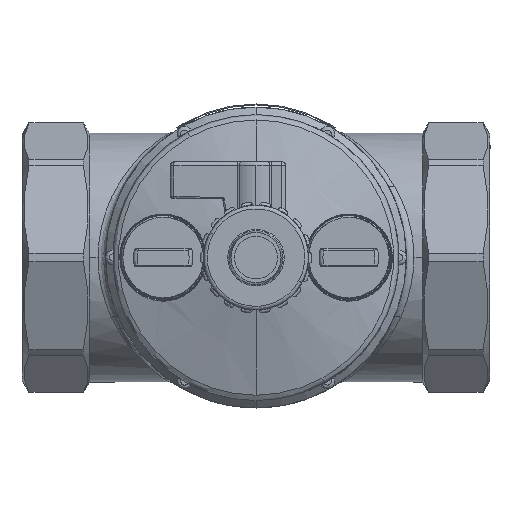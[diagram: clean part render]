
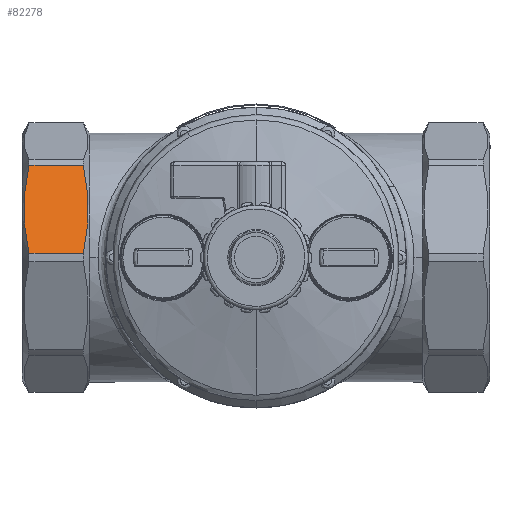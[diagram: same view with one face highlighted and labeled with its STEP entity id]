
A CAD part, front view. The second image highlights one B-rep face of the part: STEP entity #82278.
In plain terms, the highlighted planar face has unit normal (0, -0.924, 0.383) as drawn and (0.383, 0, -0.924) by its records, which use the part's own axes.
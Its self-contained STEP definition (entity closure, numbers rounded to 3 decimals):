
#173 = CARTESIAN_POINT ( 'NONE',  ( 3.079, -46.088, -35.918 ) ) ;
#1025 = ORIENTED_EDGE ( 'NONE', *, *, #78706, .F. ) ;
#6416 = CARTESIAN_POINT ( 'NONE',  ( 24.835, -61.124, -26.906 ) ) ;
#7474 = CARTESIAN_POINT ( 'NONE',  ( 16.965, -62.359, -30.166 ) ) ;
#10460 = VERTEX_POINT ( 'NONE', #12087 ) ;
#10646 = VECTOR ( 'NONE', #81162, 1000. ) ;
#12087 = CARTESIAN_POINT ( 'NONE',  ( 1.111, -61.124, -36.733 ) ) ;
#12273 = CARTESIAN_POINT ( 'NONE',  ( 9.04, -45.259, -33.449 ) ) ;
#13119 = CARTESIAN_POINT ( 'NONE',  ( 1.111, -46.5, -36.733 ) ) ;
#15354 = AXIS2_PLACEMENT_3D ( 'NONE', #32096, #19569, #33816 ) ;
#19178 = CARTESIAN_POINT ( 'NONE',  ( 11.027, -45.142, -32.626 ) ) ;
#19569 = DIRECTION ( 'NONE',  ( 0.383, 0., -0.924 ) ) ;
#19702 = EDGE_CURVE ( 'NONE', #20546, #41273, #58850, .T. ) ;
#19939 = CARTESIAN_POINT ( 'NONE',  ( 24.835, -46.5, -26.906 ) ) ;
#20284 = LINE ( 'NONE', #40980, #10646 ) ;
#20546 = VERTEX_POINT ( 'NONE', #19939 ) ;
#21701 = CARTESIAN_POINT ( 'NONE',  ( 2.093, -61.341, -36.326 ) ) ;
#26101 = CARTESIAN_POINT ( 'NONE',  ( 14.989, -45.145, -30.984 ) ) ;
#27290 = ORIENTED_EDGE ( 'NONE', *, *, #59559, .T. ) ;
#29052 = CARTESIAN_POINT ( 'NONE',  ( 20.907, -61.898, -28.533 ) ) ;
#32096 = CARTESIAN_POINT ( 'NONE',  ( 31.028, -65.5, -24.341 ) ) ;
#33426 = CARTESIAN_POINT ( 'NONE',  ( 16.965, -45.264, -30.166 ) ) ;
#33679 = CARTESIAN_POINT ( 'NONE',  ( 1.111, -46.5, -36.733 ) ) ;
#33816 = DIRECTION ( 'NONE',  ( -0.924, 0., -0.383 ) ) ;
#35093 = B_SPLINE_CURVE_WITH_KNOTS ( 'NONE', 3,
 ( #71418, #84384, #78325, #33426, #26101, #19178, #12273, #53259, #45933, #173, #79184, #13119 ),
 .UNSPECIFIED., .F., .F.,
 ( 4, 2, 2, 2, 2, 4 ),
 ( 0., 0.006, 0.013, 0.019, 0.022, 0.026 ),
 .UNSPECIFIED. ) ;
#36313 = VERTEX_POINT ( 'NONE', #33679 ) ;
#38594 = DIRECTION ( 'NONE',  ( 0., -1., 0. ) ) ;
#40287 = CARTESIAN_POINT ( 'NONE',  ( 11.027, -62.482, -32.626 ) ) ;
#40696 = CARTESIAN_POINT ( 'NONE',  ( 24.835, -61.124, -26.906 ) ) ;
#40980 = CARTESIAN_POINT ( 'NONE',  ( 1.111, 0., -36.733 ) ) ;
#41273 = VERTEX_POINT ( 'NONE', #6416 ) ;
#41553 = CARTESIAN_POINT ( 'NONE',  ( 1.111, -61.124, -36.733 ) ) ;
#45485 = PLANE ( 'NONE',  #15354 ) ;
#45640 = ORIENTED_EDGE ( 'NONE', *, *, #19702, .T. ) ;
#45933 = CARTESIAN_POINT ( 'NONE',  ( 5.058, -45.75, -35.098 ) ) ;
#47606 = CARTESIAN_POINT ( 'NONE',  ( 3.079, -61.536, -35.918 ) ) ;
#53259 = CARTESIAN_POINT ( 'NONE',  ( 6.052, -45.606, -34.686 ) ) ;
#54084 = CARTESIAN_POINT ( 'NONE',  ( 22.873, -61.558, -27.719 ) ) ;
#54133 = B_SPLINE_CURVE_WITH_KNOTS ( 'NONE', 3,
 ( #40696, #54084, #29052, #7474, #67011, #40287, #55362, #81723, #61385, #47606, #21701, #41553 ),
 .UNSPECIFIED., .F., .F.,
 ( 4, 2, 2, 2, 2, 4 ),
 ( 0., 0.006, 0.013, 0.019, 0.022, 0.026 ),
 .UNSPECIFIED. ) ;
#55362 = CARTESIAN_POINT ( 'NONE',  ( 9.04, -62.365, -33.449 ) ) ;
#56135 = VECTOR ( 'NONE', #38594, 1000. ) ;
#58850 = LINE ( 'NONE', #70548, #56135 ) ;
#59559 = EDGE_CURVE ( 'NONE', #41273, #10460, #54133, .T. ) ;
#60124 = FACE_OUTER_BOUND ( 'NONE', #66942, .T. ) ;
#61385 = CARTESIAN_POINT ( 'NONE',  ( 5.058, -61.874, -35.098 ) ) ;
#66942 = EDGE_LOOP ( 'NONE', ( #45640, #27290, #69973, #1025 ) ) ;
#67011 = CARTESIAN_POINT ( 'NONE',  ( 14.989, -62.479, -30.984 ) ) ;
#69973 = ORIENTED_EDGE ( 'NONE', *, *, #74397, .F. ) ;
#70548 = CARTESIAN_POINT ( 'NONE',  ( 24.835, -65.5, -26.906 ) ) ;
#71418 = CARTESIAN_POINT ( 'NONE',  ( 24.835, -46.5, -26.906 ) ) ;
#74397 = EDGE_CURVE ( 'NONE', #36313, #10460, #20284, .T. ) ;
#78325 = CARTESIAN_POINT ( 'NONE',  ( 20.907, -45.725, -28.533 ) ) ;
#78706 = EDGE_CURVE ( 'NONE', #20546, #36313, #35093, .T. ) ;
#79184 = CARTESIAN_POINT ( 'NONE',  ( 2.093, -46.283, -36.326 ) ) ;
#81162 = DIRECTION ( 'NONE',  ( 0., -1., 0. ) ) ;
#81723 = CARTESIAN_POINT ( 'NONE',  ( 6.052, -62.017, -34.686 ) ) ;
#82278 = ADVANCED_FACE ( 'NONE', ( #60124 ), #45485, .T. ) ;
#84384 = CARTESIAN_POINT ( 'NONE',  ( 22.873, -46.066, -27.719 ) ) ;
